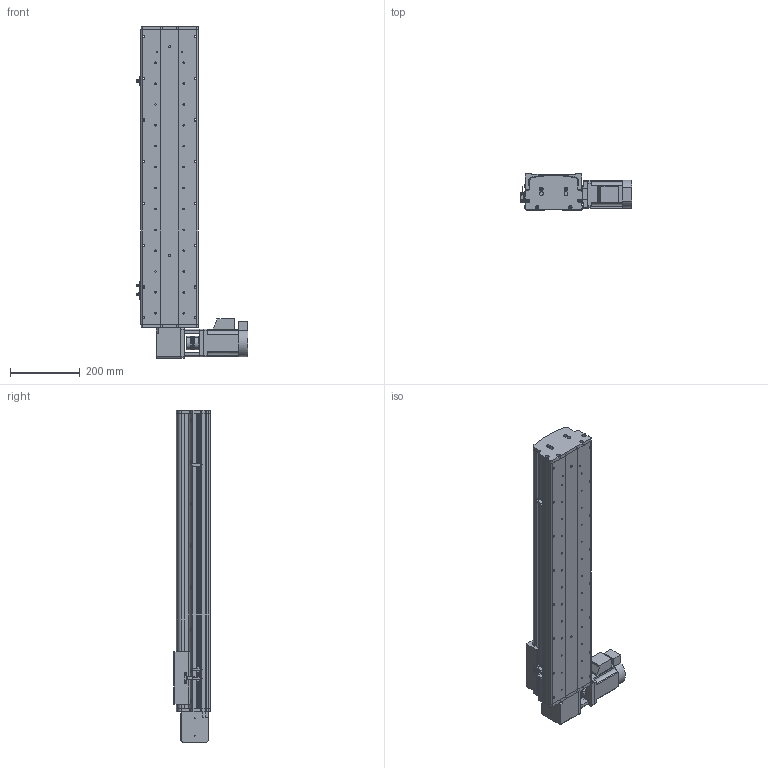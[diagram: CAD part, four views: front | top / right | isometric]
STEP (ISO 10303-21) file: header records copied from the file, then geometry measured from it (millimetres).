
FILE_DESCRIPTION (( 'STEP AP214' ), '1' );
FILE_NAME ('KSD165B-S600-MRT-CM .STEP', '2017-08-14T05:49:17', ( '微软用户' ), ( '微软中国' ), 'SwSTEP 2.0', 'SolidWorks 2014', '' );
FILE_SCHEMA (( 'AUTOMOTIVE_DESIGN' ));
Length unit declared in the file: millimetre
Products named in the file (17): U倰嫖萇EEㄜSX672; 覜茼え68遵圉猾敕; KSD165模组-同步带-防撞垫2; KSD165模组同步带-防撞垫1; KSD165耀郪-ヶ傷啣1-肮祭湍; KSD165模组-后端板1-同步带; KSD165模组-防尘板支撑座1; 130宽马达安装板1-带电机座750W（1）; KSD165模组-同步带滑动座-最新版; KSD165B-S600-MRT-CM ; KSD165模组-同步带防尘盖1-600行程-最新版; KSD165模组同步带底板-600行程-最新; 拸秶雄ん750W侜督萇儂; 165宽安装板同步带带电机座750W; 165宽马达安装板同步带右; C39ㄜ1419WP; U倰嫖萇假蚾璃
Assembly tree (20 placements, depth 2):
  KSD165B-S600-MRT-CM 
    KSD165模组-同步带滑动座-最新版
    130宽马达安装板1-带电机座750W（1）
    KSD165模组-防尘板支撑座1
    KSD165模组-后端板1-同步带
    KSD165耀郪-ヶ傷啣1-肮祭湍
    KSD165模组同步带-防撞垫1
    KSD165模组-同步带-防撞垫2
    覜茼え68遵圉猾敕
    U倰嫖萇EEㄜSX672  x3
    U倰嫖萇假蚾璃  x3
    C39ㄜ1419WP
    165宽马达安装板同步带右
    165宽安装板同步带带电机座750W
    拸秶雄ん750W侜督萇儂
    KSD165模组同步带底板-600行程-最新
    KSD165模组-同步带防尘盖1-600行程-最新版
Bounding box: 321.2 x 104 x 954 mm (x, y, z)
Volume: 6090736.8 mm3; surface area: 1362099.4 mm2
Topology: 21 solids, 21 shells, 1486 faces, 4118 edges, 2663 vertices
Faces by surface type: cylinder 799, plane 589, cone 98
Entity records: 46905 total; most frequent: CARTESIAN_POINT 9800, DIRECTION 7314, ORIENTED_EDGE 6880, EDGE_CURVE 3440, AXIS2_PLACEMENT_3D 2769, VERTEX_POINT 2255, VECTOR 1776, LINE 1776
